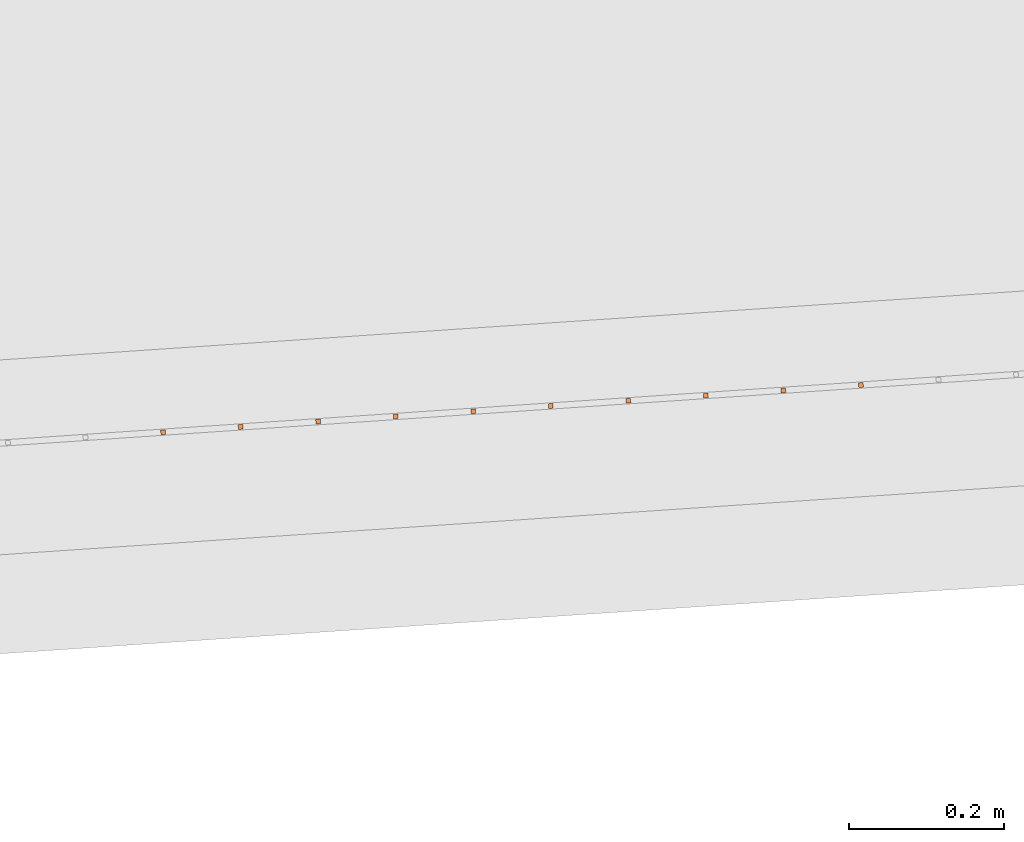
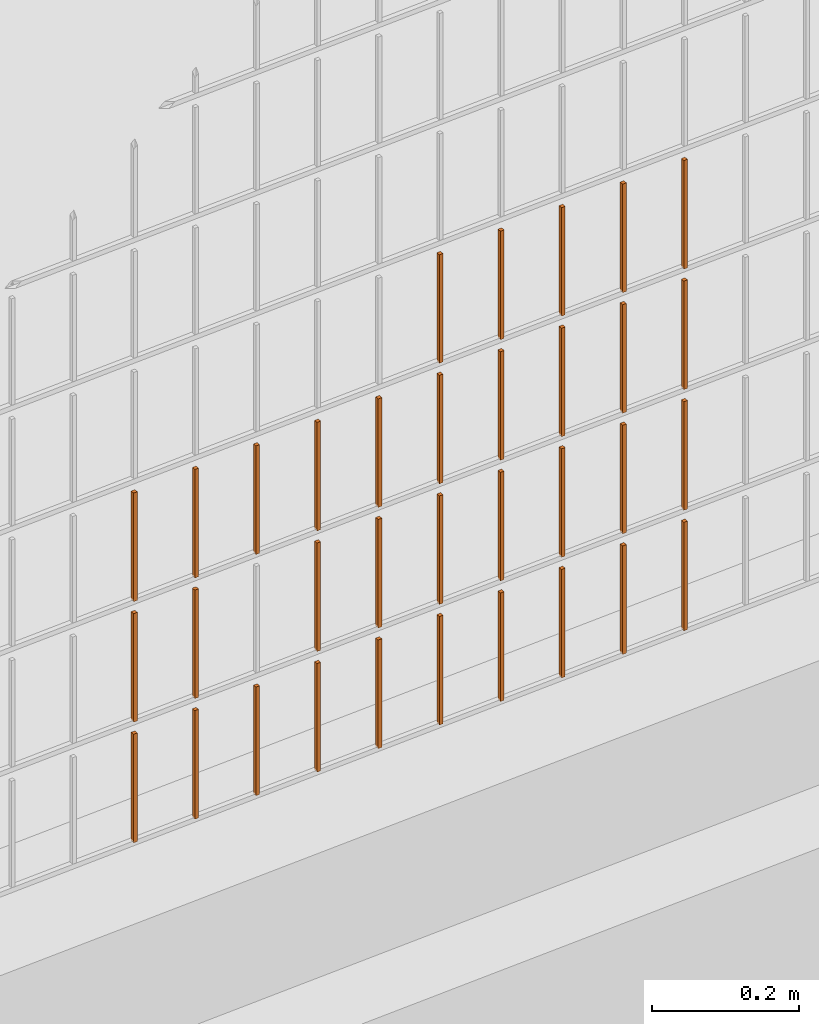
# One storey, part 310 of 1809: 34 proxies, 1 element without a shape of its own.
"""IFC2X3 building model written with IfcOpenShell, lengths in millimetres."""

from ifc_helpers import new_model, entity, si_unit, converted_unit, derived_unit, money_unit, direction, frame, origin_with_axes, place, context, subcontext, project, spatial, faceted_brep, source, transform, mapped, material, type_object, element, aggregate, save


model = new_model("IFC2X3")

# Units and contexts
model_context = context("Model", 3, precision=0.01, world=origin_with_axes(), true_north=direction((0.0, 1.0)))
body_context = subcontext(model_context, "Body", "Model", "MODEL_VIEW")
ifc_project = project(units=[si_unit("LENGTHUNIT", "METRE", prefix="MILLI"), si_unit("AREAUNIT", "SQUARE_METRE"), si_unit("VOLUMEUNIT", "CUBIC_METRE"), converted_unit("PLANEANGLEUNIT", "DEGREE", entity("IfcPlaneAngleMeasure", 0.0174532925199), si_unit("PLANEANGLEUNIT", "RADIAN"), dimensions=[0, 0, 0, 0, 0, 0, 0]), si_unit("SOLIDANGLEUNIT", "STERADIAN"), money_unit("EUR"), converted_unit("TIMEUNIT", "Year", entity("IfcTimeMeasure", 31556926.0), si_unit("TIMEUNIT", "SECOND"), dimensions=[0, 0, 1, 0, 0, 0, 0]), si_unit("MASSUNIT", "GRAM", prefix="KILO"), si_unit("THERMODYNAMICTEMPERATUREUNIT", "DEGREE_CELSIUS"), si_unit("LUMINOUSINTENSITYUNIT", "LUMEN"), si_unit("ENERGYUNIT", "JOULE", prefix="MEGA"), derived_unit("THERMALCONDUCTANCEUNIT", [(si_unit("POWERUNIT", "WATT"), 1), (si_unit("LENGTHUNIT", "METRE"), -1), (si_unit("THERMODYNAMICTEMPERATUREUNIT", "KELVIN"), -1)]), derived_unit("SPECIFICHEATCAPACITYUNIT", [(si_unit("ENERGYUNIT", "JOULE"), 1), (si_unit("MASSUNIT", "GRAM", prefix="KILO"), -1), (si_unit("THERMODYNAMICTEMPERATUREUNIT", "KELVIN"), -1)]), derived_unit("MASSDENSITYUNIT", [(si_unit("MASSUNIT", "GRAM", prefix="KILO"), 1), (si_unit("VOLUMEUNIT", "CUBIC_METRE"), -1)])], contexts=[model_context])

# Site, building, storey
site_placement = place(None, origin_with_axes())
site = spatial("IfcSite", under=ifc_project, at=site_placement, Name="Politse- ja Piirivalveameti ning Päästeameti ühishoone", CompositionType="ELEMENT")
building_placement = place(site_placement, origin_with_axes())
building = spatial("IfcBuilding", under=site, at=building_placement, Name="Politse- ja Piirivalveameti ning Päästeameti ühishoone", CompositionType="ELEMENT")
storey_placement = place(building_placement, origin_with_axes())
storey = spatial("IfcBuildingStorey", under=building, at=storey_placement, Name="Esimene korrus", CompositionType="ELEMENT", Elevation=0.0)

# Proxies
building_element_proxy_type_1 = type_object("IfcBuildingElementProxyType", Name="Railing Type", PredefinedType="NOTDEFINED")
proxy_1_placement = place(storey_placement, frame((89252.001212, -29183.4766571, 203.661247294), z_axis=(0.0, 0.0, 1.0), x_axis=(1.0, 0.0, 0.0)))
proxy_1 = element("IfcBuildingElementProxy", 1, at=proxy_1_placement, inside=storey, type_object=building_element_proxy_type_1, Name="PIIRDEAED")
ifc_material = material(Name="ET-03_Raud")
building_element_proxy_type_2 = type_object("IfcBuildingElementProxyType", Name="IfcBuildingElementProxy", PredefinedType="NOTDEFINED")
shared_shape_1 = source(origin_with_axes(), body_context, "Body", "Brep", [
    faceted_brep([(3.0, 3.0, -0.000752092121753), (-3.0, 3.0, -0.000752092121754), (-3.0, 3.0, 179.99926046), (3.0, 3.0, 179.99926046), (3.0, -3.0, 0.000752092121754), (-3.0, -3.0, 0.000752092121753), (-3.0, -3.0, 180.000764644), (3.0, -3.0, 180.000764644)], [[[0, 1, 2, 3]], [[0, 4, 5, 1]], [[1, 5, 6, 2]], [[3, 2, 6, 7]], [[4, 0, 3, 7]], [[5, 4, 7, 6]]]),
])
proxy_2_placement = place(proxy_1_placement, frame((-41033.1876878, -20069.4117363, 16.9240328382), z_axis=(0.0, 0.0, 1.0), x_axis=(1.0, 0.0, 0.0)))
proxy_2 = element("IfcBuildingElementProxy", 2, at=proxy_2_placement, type_object=building_element_proxy_type_2, material=ifc_material, Name="BALUSTER - 001", context=body_context, shape_type="MappedRepresentation", body=[
    mapped(shared_shape_1, transform((0.0, 0.0, 0.0), x_axis=(-0.0673926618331, 0.997726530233, 0.0), y_axis=(-0.997726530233, -0.0673926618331, 0.0), z_axis=(0.0, 0.0, 1.0))),
])
shared_shape_2 = source(origin_with_axes(), body_context, "Body", "Brep", [
    faceted_brep([(3.0, 3.0, -0.000752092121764), (-3.0, 3.0, -0.000752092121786), (-3.0, 3.0, 179.99926046), (3.0, 3.0, 179.99926046), (3.0, -3.0, 0.000752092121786), (-3.0, -3.0, 0.000752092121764), (-3.0, -3.0, 180.000764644), (3.0, -3.0, 180.000764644)], [[[0, 1, 2, 3]], [[0, 4, 5, 1]], [[1, 5, 6, 2]], [[3, 2, 6, 7]], [[4, 0, 3, 7]], [[5, 4, 7, 6]]]),
])
proxy_3_placement = place(proxy_1_placement, frame((-40534.3244226, -20035.7154053, 417.049381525), z_axis=(0.0, 0.0, 1.0), x_axis=(1.0, 0.0, 0.0)))
proxy_3 = element("IfcBuildingElementProxy", 3, at=proxy_3_placement, type_object=building_element_proxy_type_2, material=ifc_material, Name="BALUSTER - 001", context=body_context, shape_type="MappedRepresentation", body=[
    mapped(shared_shape_2, transform((0.0, 0.0, 0.0), x_axis=(-0.0673926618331, 0.997726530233, 0.0), y_axis=(-0.997726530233, -0.0673926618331, 0.0), z_axis=(0.0, 0.0, 1.0))),
])
proxy_4_placement = place(proxy_1_placement, frame((-40534.3244226, -20035.7154053, 617.049381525), z_axis=(0.0, 0.0, 1.0), x_axis=(1.0, 0.0, 0.0)))
proxy_4 = element("IfcBuildingElementProxy", 4, at=proxy_4_placement, type_object=building_element_proxy_type_2, material=ifc_material, Name="BALUSTER - 001", context=body_context, shape_type="MappedRepresentation", body=[
    mapped(shared_shape_2, transform((0.0, 0.0, 0.0), x_axis=(-0.0673926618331, 0.997726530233, 0.0), y_axis=(-0.997726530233, -0.0673926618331, 0.0), z_axis=(0.0, 0.0, 1.0))),
])
shared_shape_3 = source(origin_with_axes(), body_context, "Body", "Brep", [
    faceted_brep([(3.0, 3.0, -0.000752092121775), (-3.0, 3.0, -0.000752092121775), (-3.0, 3.0, 179.99926046), (3.0, 3.0, 179.99926046), (3.0, -3.0, 0.000752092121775), (-3.0, -3.0, 0.000752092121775), (-3.0, -3.0, 180.000764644), (3.0, -3.0, 180.000764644)], [[[0, 1, 2, 3]], [[0, 4, 5, 1]], [[1, 5, 6, 2]], [[3, 2, 6, 7]], [[4, 0, 3, 7]], [[5, 4, 7, 6]]]),
])
proxy_5_placement = place(proxy_1_placement, frame((-40434.5517696, -20028.9761392, 617.074451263), z_axis=(0.0, 0.0, 1.0), x_axis=(1.0, 0.0, 0.0)))
proxy_5 = element("IfcBuildingElementProxy", 5, at=proxy_5_placement, type_object=building_element_proxy_type_2, material=ifc_material, Name="BALUSTER - 001", context=body_context, shape_type="MappedRepresentation", body=[
    mapped(shared_shape_3, transform((0.0, 0.0, 0.0), x_axis=(-0.0673926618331, 0.997726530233, 0.0), y_axis=(-0.997726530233, -0.0673926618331, 0.0), z_axis=(0.0, 0.0, 1.0))),
])
shared_shape_4 = source(origin_with_axes(), body_context, "Body", "Brep", [
    faceted_brep([(3.0, 3.0, -0.000752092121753), (-3.0, 3.0, -0.000752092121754), (-3.0, 3.0, 179.99926046), (3.0, 3.0, 179.99926046), (3.0, -3.0, 0.000752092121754), (-3.0, -3.0, 0.000752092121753), (-3.0, -3.0, 180.000764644), (3.0, -3.0, 180.000764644)], [[[0, 1, 2, 3]], [[0, 4, 5, 1]], [[1, 5, 6, 2]], [[3, 2, 6, 7]], [[4, 0, 3, 7]], [[5, 4, 7, 6]]]),
])
proxy_6_placement = place(proxy_1_placement, frame((-41033.1876878, -20069.4117363, 416.924032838), z_axis=(0.0, 0.0, 1.0), x_axis=(1.0, 0.0, 0.0)))
proxy_6 = element("IfcBuildingElementProxy", 6, at=proxy_6_placement, type_object=building_element_proxy_type_2, material=ifc_material, Name="BALUSTER - 001", context=body_context, shape_type="MappedRepresentation", body=[
    mapped(shared_shape_4, transform((0.0, 0.0, 0.0), x_axis=(-0.0673926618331, 0.997726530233, 0.0), y_axis=(-0.997726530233, -0.0673926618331, 0.0), z_axis=(0.0, 0.0, 1.0))),
])
shared_shape_5 = source(origin_with_axes(), body_context, "Body", "Brep", [
    faceted_brep([(3.0, 3.0, -0.000752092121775), (-3.0, 3.0, -0.000752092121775), (-3.0, 3.0, 179.99926046), (3.0, 3.0, 179.99926046), (3.0, -3.0, 0.000752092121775), (-3.0, -3.0, 0.000752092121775), (-3.0, -3.0, 180.000764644), (3.0, -3.0, 180.000764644)], [[[0, 1, 2, 3]], [[0, 4, 5, 1]], [[1, 5, 6, 2]], [[3, 2, 6, 7]], [[4, 0, 3, 7]], [[5, 4, 7, 6]]]),
])
proxy_7_placement = place(proxy_1_placement, frame((-40434.5517696, -20028.9761392, 417.074451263), z_axis=(0.0, 0.0, 1.0), x_axis=(1.0, 0.0, 0.0)))
proxy_7 = element("IfcBuildingElementProxy", 7, at=proxy_7_placement, type_object=building_element_proxy_type_2, material=ifc_material, Name="BALUSTER - 001", context=body_context, shape_type="MappedRepresentation", body=[
    mapped(shared_shape_5, transform((0.0, 0.0, 0.0), x_axis=(-0.0673926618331, 0.997726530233, 0.0), y_axis=(-0.997726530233, -0.0673926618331, 0.0), z_axis=(0.0, 0.0, 1.0))),
])
shared_shape_6 = source(origin_with_axes(), body_context, "Body", "Brep", [
    faceted_brep([(3.0, 3.0, -0.000752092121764), (-3.0, 3.0, -0.000752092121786), (-3.0, 3.0, 179.99926046), (3.0, 3.0, 179.99926046), (3.0, -3.0, 0.000752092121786), (-3.0, -3.0, 0.000752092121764), (-3.0, -3.0, 180.000764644), (3.0, -3.0, 180.000764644)], [[[0, 1, 2, 3]], [[0, 4, 5, 1]], [[1, 5, 6, 2]], [[3, 2, 6, 7]], [[4, 0, 3, 7]], [[5, 4, 7, 6]]]),
])
proxy_8_placement = place(proxy_1_placement, frame((-40534.3244226, -20035.7154053, 17.0493815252), z_axis=(0.0, 0.0, 1.0), x_axis=(1.0, 0.0, 0.0)))
proxy_8 = element("IfcBuildingElementProxy", 8, at=proxy_8_placement, type_object=building_element_proxy_type_2, material=ifc_material, Name="BALUSTER - 001", context=body_context, shape_type="MappedRepresentation", body=[
    mapped(shared_shape_6, transform((0.0, 0.0, 0.0), x_axis=(-0.0673926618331, 0.997726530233, 0.0), y_axis=(-0.997726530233, -0.0673926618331, 0.0), z_axis=(0.0, 0.0, 1.0))),
])
shared_shape_7 = source(origin_with_axes(), body_context, "Body", "Brep", [
    faceted_brep([(3.0, 3.0, -0.000752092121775), (-3.0, 3.0, -0.000752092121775), (-3.0, 3.0, 179.99926046), (3.0, 3.0, 179.99926046), (3.0, -3.0, 0.000752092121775), (-3.0, -3.0, 0.000752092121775), (-3.0, -3.0, 180.000764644), (3.0, -3.0, 180.000764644)], [[[0, 1, 2, 3]], [[0, 4, 5, 1]], [[1, 5, 6, 2]], [[3, 2, 6, 7]], [[4, 0, 3, 7]], [[5, 4, 7, 6]]]),
])
proxy_9_placement = place(proxy_1_placement, frame((-40434.5517696, -20028.9761392, 17.0744512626), z_axis=(0.0, 0.0, 1.0), x_axis=(1.0, 0.0, 0.0)))
proxy_9 = element("IfcBuildingElementProxy", 9, at=proxy_9_placement, type_object=building_element_proxy_type_2, material=ifc_material, Name="BALUSTER - 001", context=body_context, shape_type="MappedRepresentation", body=[
    mapped(shared_shape_7, transform((0.0, 0.0, 0.0), x_axis=(-0.0673926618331, 0.997726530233, 0.0), y_axis=(-0.997726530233, -0.0673926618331, 0.0), z_axis=(0.0, 0.0, 1.0))),
])
proxy_10_placement = place(proxy_1_placement, frame((-40434.5517696, -20028.9761392, 217.074451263), z_axis=(0.0, 0.0, 1.0), x_axis=(1.0, 0.0, 0.0)))
proxy_10 = element("IfcBuildingElementProxy", 10, at=proxy_10_placement, type_object=building_element_proxy_type_2, material=ifc_material, Name="BALUSTER - 001", context=body_context, shape_type="MappedRepresentation", body=[
    mapped(shared_shape_7, transform((0.0, 0.0, 0.0), x_axis=(-0.0673926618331, 0.997726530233, 0.0), y_axis=(-0.997726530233, -0.0673926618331, 0.0), z_axis=(0.0, 0.0, 1.0))),
])
shared_shape_8 = source(origin_with_axes(), body_context, "Body", "Brep", [
    faceted_brep([(3.0, 3.0, -0.000752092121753), (-3.0, 3.0, -0.000752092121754), (-3.0, 3.0, 179.99926046), (3.0, 3.0, 179.99926046), (3.0, -3.0, 0.000752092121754), (-3.0, -3.0, 0.000752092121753), (-3.0, -3.0, 180.000764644), (3.0, -3.0, 180.000764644)], [[[0, 1, 2, 3]], [[0, 4, 5, 1]], [[1, 5, 6, 2]], [[3, 2, 6, 7]], [[4, 0, 3, 7]], [[5, 4, 7, 6]]]),
])
proxy_11_placement = place(proxy_1_placement, frame((-41033.1876878, -20069.4117363, 216.924032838), z_axis=(0.0, 0.0, 1.0), x_axis=(1.0, 0.0, 0.0)))
proxy_11 = element("IfcBuildingElementProxy", 11, at=proxy_11_placement, type_object=building_element_proxy_type_2, material=ifc_material, Name="BALUSTER - 001", context=body_context, shape_type="MappedRepresentation", body=[
    mapped(shared_shape_8, transform((0.0, 0.0, 0.0), x_axis=(-0.0673926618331, 0.997726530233, 0.0), y_axis=(-0.997726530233, -0.0673926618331, 0.0), z_axis=(0.0, 0.0, 1.0))),
])
shared_shape_9 = source(origin_with_axes(), body_context, "Body", "Brep", [
    faceted_brep([(3.0, 3.0, -0.000752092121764), (-3.0, 3.0, -0.000752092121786), (-3.0, 3.0, 179.99926046), (3.0, 3.0, 179.99926046), (3.0, -3.0, 0.000752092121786), (-3.0, -3.0, 0.000752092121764), (-3.0, -3.0, 180.000764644), (3.0, -3.0, 180.000764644)], [[[0, 1, 2, 3]], [[0, 4, 5, 1]], [[1, 5, 6, 2]], [[3, 2, 6, 7]], [[4, 0, 3, 7]], [[5, 4, 7, 6]]]),
])
proxy_12_placement = place(proxy_1_placement, frame((-40534.3244226, -20035.7154053, 217.049381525), z_axis=(0.0, 0.0, 1.0), x_axis=(1.0, 0.0, 0.0)))
proxy_12 = element("IfcBuildingElementProxy", 12, at=proxy_12_placement, type_object=building_element_proxy_type_2, material=ifc_material, Name="BALUSTER - 001", context=body_context, shape_type="MappedRepresentation", body=[
    mapped(shared_shape_9, transform((0.0, 0.0, 0.0), x_axis=(-0.0673926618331, 0.997726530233, 0.0), y_axis=(-0.997726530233, -0.0673926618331, 0.0), z_axis=(0.0, 0.0, 1.0))),
])
shared_shape_10 = source(origin_with_axes(), body_context, "Body", "Brep", [
    faceted_brep([(3.0, 3.0, -0.000752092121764), (-3.0, 3.0, -0.000752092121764), (-3.0, 3.0, 179.99926046), (3.0, 3.0, 179.99926046), (3.0, -3.0, 0.000752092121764), (-3.0, -3.0, 0.000752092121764), (-3.0, -3.0, 180.000764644), (3.0, -3.0, 180.000764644)], [[[0, 1, 2, 3]], [[0, 4, 5, 1]], [[1, 5, 6, 2]], [[3, 2, 6, 7]], [[4, 0, 3, 7]], [[5, 4, 7, 6]]]),
])
proxy_13_placement = place(proxy_1_placement, frame((-40634.0970757, -20042.4546715, 617.024311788), z_axis=(0.0, 0.0, 1.0), x_axis=(1.0, 0.0, 0.0)))
proxy_13 = element("IfcBuildingElementProxy", 13, at=proxy_13_placement, type_object=building_element_proxy_type_2, material=ifc_material, Name="BALUSTER - 001", context=body_context, shape_type="MappedRepresentation", body=[
    mapped(shared_shape_10, transform((0.0, 0.0, 0.0), x_axis=(-0.0673926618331, 0.997726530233, 0.0), y_axis=(-0.997726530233, -0.0673926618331, 0.0), z_axis=(0.0, 0.0, 1.0))),
])
shared_shape_11 = source(origin_with_axes(), body_context, "Body", "Brep", [
    faceted_brep([(3.0, 3.0, -0.000752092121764), (-3.0, 3.0, -0.000752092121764), (-3.0, 3.0, 179.99926046), (3.0, 3.0, 179.99926046), (3.0, -3.0, 0.000752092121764), (-3.0, -3.0, 0.000752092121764), (-3.0, -3.0, 180.000764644), (3.0, -3.0, 180.000764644)], [[[0, 1, 2, 3]], [[0, 4, 5, 1]], [[1, 5, 6, 2]], [[3, 2, 6, 7]], [[4, 0, 3, 7]], [[5, 4, 7, 6]]]),
])
proxy_14_placement = place(proxy_1_placement, frame((-40235.0064636, -20015.4976068, 417.124590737), z_axis=(0.0, 0.0, 1.0), x_axis=(1.0, 0.0, 0.0)))
proxy_14 = element("IfcBuildingElementProxy", 14, at=proxy_14_placement, type_object=building_element_proxy_type_2, material=ifc_material, Name="BALUSTER - 001", context=body_context, shape_type="MappedRepresentation", body=[
    mapped(shared_shape_11, transform((0.0, 0.0, 0.0), x_axis=(-0.0673926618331, 0.997726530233, 0.0), y_axis=(-0.997726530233, -0.0673926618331, 0.0), z_axis=(0.0, 0.0, 1.0))),
])
proxy_15_placement = place(proxy_1_placement, frame((-40235.0064636, -20015.4976068, 617.124590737), z_axis=(0.0, 0.0, 1.0), x_axis=(1.0, 0.0, 0.0)))
proxy_15 = element("IfcBuildingElementProxy", 15, at=proxy_15_placement, type_object=building_element_proxy_type_2, material=ifc_material, Name="BALUSTER - 001", context=body_context, shape_type="MappedRepresentation", body=[
    mapped(shared_shape_11, transform((0.0, 0.0, 0.0), x_axis=(-0.0673926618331, 0.997726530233, 0.0), y_axis=(-0.997726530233, -0.0673926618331, 0.0), z_axis=(0.0, 0.0, 1.0))),
])
shared_shape_12 = source(origin_with_axes(), body_context, "Body", "Brep", [
    faceted_brep([(3.0, 3.0, -0.000752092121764), (-3.0, 3.0, -0.000752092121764), (-3.0, 3.0, 179.99926046), (3.0, 3.0, 179.99926046), (3.0, -3.0, 0.000752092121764), (-3.0, -3.0, 0.000752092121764), (-3.0, -3.0, 180.000764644), (3.0, -3.0, 180.000764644)], [[[0, 1, 2, 3]], [[0, 4, 5, 1]], [[1, 5, 6, 2]], [[3, 2, 6, 7]], [[4, 0, 3, 7]], [[5, 4, 7, 6]]]),
])
proxy_16_placement = place(proxy_1_placement, frame((-40235.0064636, -20015.4976068, 217.124590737), z_axis=(0.0, 0.0, 1.0), x_axis=(1.0, 0.0, 0.0)))
proxy_16 = element("IfcBuildingElementProxy", 16, at=proxy_16_placement, type_object=building_element_proxy_type_2, material=ifc_material, Name="BALUSTER - 001", context=body_context, shape_type="MappedRepresentation", body=[
    mapped(shared_shape_12, transform((0.0, 0.0, 0.0), x_axis=(-0.0673926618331, 0.997726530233, 0.0), y_axis=(-0.997726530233, -0.0673926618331, 0.0), z_axis=(0.0, 0.0, 1.0))),
])
shared_shape_13 = source(origin_with_axes(), body_context, "Body", "Brep", [
    faceted_brep([(3.0, 3.0, -0.000752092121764), (-3.0, 3.0, -0.000752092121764), (-3.0, 3.0, 179.99926046), (3.0, 3.0, 179.99926046), (3.0, -3.0, 0.000752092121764), (-3.0, -3.0, 0.000752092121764), (-3.0, -3.0, 180.000764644), (3.0, -3.0, 180.000764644)], [[[0, 1, 2, 3]], [[0, 4, 5, 1]], [[1, 5, 6, 2]], [[3, 2, 6, 7]], [[4, 0, 3, 7]], [[5, 4, 7, 6]]]),
])
proxy_17_placement = place(proxy_1_placement, frame((-40634.0970757, -20042.4546715, 217.024311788), z_axis=(0.0, 0.0, 1.0), x_axis=(1.0, 0.0, 0.0)))
proxy_17 = element("IfcBuildingElementProxy", 17, at=proxy_17_placement, type_object=building_element_proxy_type_2, material=ifc_material, Name="BALUSTER - 001", context=body_context, shape_type="MappedRepresentation", body=[
    mapped(shared_shape_13, transform((0.0, 0.0, 0.0), x_axis=(-0.0673926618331, 0.997726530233, 0.0), y_axis=(-0.997726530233, -0.0673926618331, 0.0), z_axis=(0.0, 0.0, 1.0))),
])
proxy_18_placement = place(proxy_1_placement, frame((-40634.0970757, -20042.4546715, 417.024311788), z_axis=(0.0, 0.0, 1.0), x_axis=(1.0, 0.0, 0.0)))
proxy_18 = element("IfcBuildingElementProxy", 18, at=proxy_18_placement, type_object=building_element_proxy_type_2, material=ifc_material, Name="BALUSTER - 001", context=body_context, shape_type="MappedRepresentation", body=[
    mapped(shared_shape_13, transform((0.0, 0.0, 0.0), x_axis=(-0.0673926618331, 0.997726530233, 0.0), y_axis=(-0.997726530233, -0.0673926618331, 0.0), z_axis=(0.0, 0.0, 1.0))),
])
shared_shape_14 = source(origin_with_axes(), body_context, "Body", "Brep", [
    faceted_brep([(3.0, 3.0, -0.000752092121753), (-3.0, 3.0, -0.000752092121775), (-3.0, 3.0, 179.99926046), (3.0, 3.0, 179.99926046), (3.0, -3.0, 0.000752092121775), (-3.0, -3.0, 0.000752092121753), (-3.0, -3.0, 180.000764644), (3.0, -3.0, 180.000764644)], [[[0, 1, 2, 3]], [[0, 4, 5, 1]], [[1, 5, 6, 2]], [[3, 2, 6, 7]], [[4, 0, 3, 7]], [[5, 4, 7, 6]]]),
])
proxy_19_placement = place(proxy_1_placement, frame((-41132.9603408, -20076.1510024, 416.898963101), z_axis=(0.0, 0.0, 1.0), x_axis=(1.0, 0.0, 0.0)))
proxy_19 = element("IfcBuildingElementProxy", 19, at=proxy_19_placement, type_object=building_element_proxy_type_2, material=ifc_material, Name="BALUSTER - 001", context=body_context, shape_type="MappedRepresentation", body=[
    mapped(shared_shape_14, transform((0.0, 0.0, 0.0), x_axis=(-0.0673926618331, 0.997726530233, 0.0), y_axis=(-0.997726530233, -0.0673926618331, 0.0), z_axis=(0.0, 0.0, 1.0))),
])
shared_shape_15 = source(origin_with_axes(), body_context, "Body", "Brep", [
    faceted_brep([(3.0, 3.0, -0.000752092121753), (-3.0, 3.0, -0.000752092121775), (-3.0, 3.0, 179.99926046), (3.0, 3.0, 179.99926046), (3.0, -3.0, 0.000752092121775), (-3.0, -3.0, 0.000752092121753), (-3.0, -3.0, 180.000764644), (3.0, -3.0, 180.000764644)], [[[0, 1, 2, 3]], [[0, 4, 5, 1]], [[1, 5, 6, 2]], [[3, 2, 6, 7]], [[4, 0, 3, 7]], [[5, 4, 7, 6]]]),
])
proxy_20_placement = place(proxy_1_placement, frame((-40933.4150347, -20062.6724701, 16.9491025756), z_axis=(0.0, 0.0, 1.0), x_axis=(1.0, 0.0, 0.0)))
proxy_20 = element("IfcBuildingElementProxy", 20, at=proxy_20_placement, type_object=building_element_proxy_type_2, material=ifc_material, Name="BALUSTER - 001", context=body_context, shape_type="MappedRepresentation", body=[
    mapped(shared_shape_15, transform((0.0, 0.0, 0.0), x_axis=(-0.0673926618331, 0.997726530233, 0.0), y_axis=(-0.997726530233, -0.0673926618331, 0.0), z_axis=(0.0, 0.0, 1.0))),
])
shared_shape_16 = source(origin_with_axes(), body_context, "Body", "Brep", [
    faceted_brep([(3.0, 3.0, -0.000752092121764), (-3.0, 3.0, -0.000752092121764), (-3.0, 3.0, 179.99926046), (3.0, 3.0, 179.99926046), (3.0, -3.0, 0.000752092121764), (-3.0, -3.0, 0.000752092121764), (-3.0, -3.0, 180.000764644), (3.0, -3.0, 180.000764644)], [[[0, 1, 2, 3]], [[0, 4, 5, 1]], [[1, 5, 6, 2]], [[3, 2, 6, 7]], [[4, 0, 3, 7]], [[5, 4, 7, 6]]]),
])
proxy_21_placement = place(proxy_1_placement, frame((-40634.0970757, -20042.4546715, 17.0243117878), z_axis=(0.0, 0.0, 1.0), x_axis=(1.0, 0.0, 0.0)))
proxy_21 = element("IfcBuildingElementProxy", 21, at=proxy_21_placement, type_object=building_element_proxy_type_2, material=ifc_material, Name="BALUSTER - 001", context=body_context, shape_type="MappedRepresentation", body=[
    mapped(shared_shape_16, transform((0.0, 0.0, 0.0), x_axis=(-0.0673926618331, 0.997726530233, 0.0), y_axis=(-0.997726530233, -0.0673926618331, 0.0), z_axis=(0.0, 0.0, 1.0))),
])
shared_shape_17 = source(origin_with_axes(), body_context, "Body", "Brep", [
    faceted_brep([(3.0, 3.0, -0.000752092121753), (-3.0, 3.0, -0.000752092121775), (-3.0, 3.0, 179.99926046), (3.0, 3.0, 179.99926046), (3.0, -3.0, 0.000752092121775), (-3.0, -3.0, 0.000752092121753), (-3.0, -3.0, 180.000764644), (3.0, -3.0, 180.000764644)], [[[0, 1, 2, 3]], [[0, 4, 5, 1]], [[1, 5, 6, 2]], [[3, 2, 6, 7]], [[4, 0, 3, 7]], [[5, 4, 7, 6]]]),
])
proxy_22_placement = place(proxy_1_placement, frame((-41132.9603408, -20076.1510024, 16.8989631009), z_axis=(0.0, 0.0, 1.0), x_axis=(1.0, 0.0, 0.0)))
proxy_22 = element("IfcBuildingElementProxy", 22, at=proxy_22_placement, type_object=building_element_proxy_type_2, material=ifc_material, Name="BALUSTER - 001", context=body_context, shape_type="MappedRepresentation", body=[
    mapped(shared_shape_17, transform((0.0, 0.0, 0.0), x_axis=(-0.0673926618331, 0.997726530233, 0.0), y_axis=(-0.997726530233, -0.0673926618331, 0.0), z_axis=(0.0, 0.0, 1.0))),
])
proxy_23_placement = place(proxy_1_placement, frame((-41132.9603408, -20076.1510024, 216.898963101), z_axis=(0.0, 0.0, 1.0), x_axis=(1.0, 0.0, 0.0)))
proxy_23 = element("IfcBuildingElementProxy", 23, at=proxy_23_placement, type_object=building_element_proxy_type_2, material=ifc_material, Name="BALUSTER - 001", context=body_context, shape_type="MappedRepresentation", body=[
    mapped(shared_shape_17, transform((0.0, 0.0, 0.0), x_axis=(-0.0673926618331, 0.997726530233, 0.0), y_axis=(-0.997726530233, -0.0673926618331, 0.0), z_axis=(0.0, 0.0, 1.0))),
])
shared_shape_18 = source(origin_with_axes(), body_context, "Body", "Brep", [
    faceted_brep([(3.0, 3.0, -0.000752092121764), (-3.0, 3.0, -0.000752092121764), (-3.0, 3.0, 179.99926046), (3.0, 3.0, 179.99926046), (3.0, -3.0, 0.000752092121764), (-3.0, -3.0, 0.000752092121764), (-3.0, -3.0, 180.000764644), (3.0, -3.0, 180.000764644)], [[[0, 1, 2, 3]], [[0, 4, 5, 1]], [[1, 5, 6, 2]], [[3, 2, 6, 7]], [[4, 0, 3, 7]], [[5, 4, 7, 6]]]),
])
proxy_24_placement = place(proxy_1_placement, frame((-40833.6423817, -20055.9332039, 16.974172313), z_axis=(0.0, 0.0, 1.0), x_axis=(1.0, 0.0, 0.0)))
proxy_24 = element("IfcBuildingElementProxy", 24, at=proxy_24_placement, type_object=building_element_proxy_type_2, material=ifc_material, Name="BALUSTER - 001", context=body_context, shape_type="MappedRepresentation", body=[
    mapped(shared_shape_18, transform((0.0, 0.0, 0.0), x_axis=(-0.0673926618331, 0.997726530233, 0.0), y_axis=(-0.997726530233, -0.0673926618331, 0.0), z_axis=(0.0, 0.0, 1.0))),
])
shared_shape_19 = source(origin_with_axes(), body_context, "Body", "Brep", [
    faceted_brep([(3.0, 3.0, -0.000752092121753), (-3.0, 3.0, -0.000752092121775), (-3.0, 3.0, 179.99926046), (3.0, 3.0, 179.99926046), (3.0, -3.0, 0.000752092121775), (-3.0, -3.0, 0.000752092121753), (-3.0, -3.0, 180.000764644), (3.0, -3.0, 180.000764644)], [[[0, 1, 2, 3]], [[0, 4, 5, 1]], [[1, 5, 6, 2]], [[3, 2, 6, 7]], [[4, 0, 3, 7]], [[5, 4, 7, 6]]]),
])
proxy_25_placement = place(proxy_1_placement, frame((-40933.4150347, -20062.6724701, 416.949102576), z_axis=(0.0, 0.0, 1.0), x_axis=(1.0, 0.0, 0.0)))
proxy_25 = element("IfcBuildingElementProxy", 25, at=proxy_25_placement, type_object=building_element_proxy_type_2, material=ifc_material, Name="BALUSTER - 001", context=body_context, shape_type="MappedRepresentation", body=[
    mapped(shared_shape_19, transform((0.0, 0.0, 0.0), x_axis=(-0.0673926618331, 0.997726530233, 0.0), y_axis=(-0.997726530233, -0.0673926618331, 0.0), z_axis=(0.0, 0.0, 1.0))),
])
shared_shape_20 = source(origin_with_axes(), body_context, "Body", "Brep", [
    faceted_brep([(3.0, 3.0, -0.000752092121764), (-3.0, 3.0, -0.000752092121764), (-3.0, 3.0, 179.99926046), (3.0, 3.0, 179.99926046), (3.0, -3.0, 0.000752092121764), (-3.0, -3.0, 0.000752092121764), (-3.0, -3.0, 180.000764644), (3.0, -3.0, 180.000764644)], [[[0, 1, 2, 3]], [[0, 4, 5, 1]], [[1, 5, 6, 2]], [[3, 2, 6, 7]], [[4, 0, 3, 7]], [[5, 4, 7, 6]]]),
])
proxy_26_placement = place(proxy_1_placement, frame((-40733.8697287, -20049.1939377, 216.99924205), z_axis=(0.0, 0.0, 1.0), x_axis=(1.0, 0.0, 0.0)))
proxy_26 = element("IfcBuildingElementProxy", 26, at=proxy_26_placement, type_object=building_element_proxy_type_2, material=ifc_material, Name="BALUSTER - 001", context=body_context, shape_type="MappedRepresentation", body=[
    mapped(shared_shape_20, transform((0.0, 0.0, 0.0), x_axis=(-0.0673926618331, 0.997726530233, 0.0), y_axis=(-0.997726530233, -0.0673926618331, 0.0), z_axis=(0.0, 0.0, 1.0))),
])
proxy_27_placement = place(proxy_1_placement, frame((-40833.6423817, -20055.9332039, 216.974172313), z_axis=(0.0, 0.0, 1.0), x_axis=(1.0, 0.0, 0.0)))
proxy_27 = element("IfcBuildingElementProxy", 27, at=proxy_27_placement, type_object=building_element_proxy_type_2, material=ifc_material, Name="BALUSTER - 001", context=body_context, shape_type="MappedRepresentation", body=[
    mapped(shared_shape_20, transform((0.0, 0.0, 0.0), x_axis=(-0.0673926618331, 0.997726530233, 0.0), y_axis=(-0.997726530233, -0.0673926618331, 0.0), z_axis=(0.0, 0.0, 1.0))),
])
proxy_28_placement = place(proxy_1_placement, frame((-40833.6423817, -20055.9332039, 416.974172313), z_axis=(0.0, 0.0, 1.0), x_axis=(1.0, 0.0, 0.0)))
proxy_28 = element("IfcBuildingElementProxy", 28, at=proxy_28_placement, type_object=building_element_proxy_type_2, material=ifc_material, Name="BALUSTER - 001", context=body_context, shape_type="MappedRepresentation", body=[
    mapped(shared_shape_20, transform((0.0, 0.0, 0.0), x_axis=(-0.0673926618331, 0.997726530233, 0.0), y_axis=(-0.997726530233, -0.0673926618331, 0.0), z_axis=(0.0, 0.0, 1.0))),
])
shared_shape_21 = source(origin_with_axes(), body_context, "Body", "Brep", [
    faceted_brep([(3.0, 3.0, -0.000752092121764), (-3.0, 3.0, -0.000752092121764), (-3.0, 3.0, 179.99926046), (3.0, 3.0, 179.99926046), (3.0, -3.0, 0.000752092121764), (-3.0, -3.0, 0.000752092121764), (-3.0, -3.0, 180.000764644), (3.0, -3.0, 180.000764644)], [[[0, 1, 2, 3]], [[0, 4, 5, 1]], [[1, 5, 6, 2]], [[3, 2, 6, 7]], [[4, 0, 3, 7]], [[5, 4, 7, 6]]]),
])
proxy_29_placement = place(proxy_1_placement, frame((-40733.8697287, -20049.1939377, 16.9992420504), z_axis=(0.0, 0.0, 1.0), x_axis=(1.0, 0.0, 0.0)))
proxy_29 = element("IfcBuildingElementProxy", 29, at=proxy_29_placement, type_object=building_element_proxy_type_2, material=ifc_material, Name="BALUSTER - 001", context=body_context, shape_type="MappedRepresentation", body=[
    mapped(shared_shape_21, transform((0.0, 0.0, 0.0), x_axis=(-0.0673926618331, 0.997726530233, 0.0), y_axis=(-0.997726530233, -0.0673926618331, 0.0), z_axis=(0.0, 0.0, 1.0))),
])
shared_shape_22 = source(origin_with_axes(), body_context, "Body", "Brep", [
    faceted_brep([(3.0, 3.0, -0.000752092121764), (-3.0, 3.0, -0.000752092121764), (-3.0, 3.0, 179.99926046), (3.0, 3.0, 179.99926046), (3.0, -3.0, 0.000752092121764), (-3.0, -3.0, 0.000752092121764), (-3.0, -3.0, 180.000764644), (3.0, -3.0, 180.000764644)], [[[0, 1, 2, 3]], [[0, 4, 5, 1]], [[1, 5, 6, 2]], [[3, 2, 6, 7]], [[4, 0, 3, 7]], [[5, 4, 7, 6]]]),
])
proxy_30_placement = place(proxy_1_placement, frame((-40733.8697287, -20049.1939377, 416.99924205), z_axis=(0.0, 0.0, 1.0), x_axis=(1.0, 0.0, 0.0)))
proxy_30 = element("IfcBuildingElementProxy", 30, at=proxy_30_placement, type_object=building_element_proxy_type_2, material=ifc_material, Name="BALUSTER - 001", context=body_context, shape_type="MappedRepresentation", body=[
    mapped(shared_shape_22, transform((0.0, 0.0, 0.0), x_axis=(-0.0673926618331, 0.997726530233, 0.0), y_axis=(-0.997726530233, -0.0673926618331, 0.0), z_axis=(0.0, 0.0, 1.0))),
])
shared_shape_23 = source(origin_with_axes(), body_context, "Body", "Brep", [
    faceted_brep([(3.0, 3.0, -0.000752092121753), (-3.0, 3.0, -0.000752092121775), (-3.0, 3.0, 179.99926046), (3.0, 3.0, 179.99926046), (3.0, -3.0, 0.000752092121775), (-3.0, -3.0, 0.000752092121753), (-3.0, -3.0, 180.000764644), (3.0, -3.0, 180.000764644)], [[[0, 1, 2, 3]], [[0, 4, 5, 1]], [[1, 5, 6, 2]], [[3, 2, 6, 7]], [[4, 0, 3, 7]], [[5, 4, 7, 6]]]),
])
proxy_31_placement = place(proxy_1_placement, frame((-40334.7791166, -20022.236873, 617.099521), z_axis=(0.0, 0.0, 1.0), x_axis=(1.0, 0.0, 0.0)))
proxy_31 = element("IfcBuildingElementProxy", 31, at=proxy_31_placement, type_object=building_element_proxy_type_2, material=ifc_material, Name="BALUSTER - 001", context=body_context, shape_type="MappedRepresentation", body=[
    mapped(shared_shape_23, transform((0.0, 0.0, 0.0), x_axis=(-0.0673926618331, 0.997726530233, 0.0), y_axis=(-0.997726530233, -0.0673926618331, 0.0), z_axis=(0.0, 0.0, 1.0))),
])
shared_shape_24 = source(origin_with_axes(), body_context, "Body", "Brep", [
    faceted_brep([(3.0, 3.0, -0.000752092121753), (-3.0, 3.0, -0.000752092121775), (-3.0, 3.0, 179.99926046), (3.0, 3.0, 179.99926046), (3.0, -3.0, 0.000752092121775), (-3.0, -3.0, 0.000752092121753), (-3.0, -3.0, 180.000764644), (3.0, -3.0, 180.000764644)], [[[0, 1, 2, 3]], [[0, 4, 5, 1]], [[1, 5, 6, 2]], [[3, 2, 6, 7]], [[4, 0, 3, 7]], [[5, 4, 7, 6]]]),
])
proxy_32_placement = place(proxy_1_placement, frame((-40334.7791166, -20022.236873, 17.099521), z_axis=(0.0, 0.0, 1.0), x_axis=(1.0, 0.0, 0.0)))
proxy_32 = element("IfcBuildingElementProxy", 32, at=proxy_32_placement, type_object=building_element_proxy_type_2, material=ifc_material, Name="BALUSTER - 001", context=body_context, shape_type="MappedRepresentation", body=[
    mapped(shared_shape_24, transform((0.0, 0.0, 0.0), x_axis=(-0.0673926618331, 0.997726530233, 0.0), y_axis=(-0.997726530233, -0.0673926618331, 0.0), z_axis=(0.0, 0.0, 1.0))),
])
shared_shape_25 = source(origin_with_axes(), body_context, "Body", "Brep", [
    faceted_brep([(3.0, 3.0, -0.000752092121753), (-3.0, 3.0, -0.000752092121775), (-3.0, 3.0, 179.99926046), (3.0, 3.0, 179.99926046), (3.0, -3.0, 0.000752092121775), (-3.0, -3.0, 0.000752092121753), (-3.0, -3.0, 180.000764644), (3.0, -3.0, 180.000764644)], [[[0, 1, 2, 3]], [[0, 4, 5, 1]], [[1, 5, 6, 2]], [[3, 2, 6, 7]], [[4, 0, 3, 7]], [[5, 4, 7, 6]]]),
])
proxy_33_placement = place(proxy_1_placement, frame((-40334.7791166, -20022.236873, 417.099521), z_axis=(0.0, 0.0, 1.0), x_axis=(1.0, 0.0, 0.0)))
proxy_33 = element("IfcBuildingElementProxy", 33, at=proxy_33_placement, type_object=building_element_proxy_type_2, material=ifc_material, Name="BALUSTER - 001", context=body_context, shape_type="MappedRepresentation", body=[
    mapped(shared_shape_25, transform((0.0, 0.0, 0.0), x_axis=(-0.0673926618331, 0.997726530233, 0.0), y_axis=(-0.997726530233, -0.0673926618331, 0.0), z_axis=(0.0, 0.0, 1.0))),
])
shared_shape_26 = source(origin_with_axes(), body_context, "Body", "Brep", [
    faceted_brep([(3.0, 3.0, -0.000752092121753), (-3.0, 3.0, -0.000752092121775), (-3.0, 3.0, 179.99926046), (3.0, 3.0, 179.99926046), (3.0, -3.0, 0.000752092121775), (-3.0, -3.0, 0.000752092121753), (-3.0, -3.0, 180.000764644), (3.0, -3.0, 180.000764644)], [[[0, 1, 2, 3]], [[0, 4, 5, 1]], [[1, 5, 6, 2]], [[3, 2, 6, 7]], [[4, 0, 3, 7]], [[5, 4, 7, 6]]]),
])
proxy_34_placement = place(proxy_1_placement, frame((-40334.7791166, -20022.236873, 217.099521), z_axis=(0.0, 0.0, 1.0), x_axis=(1.0, 0.0, 0.0)))
proxy_34 = element("IfcBuildingElementProxy", 34, at=proxy_34_placement, type_object=building_element_proxy_type_2, material=ifc_material, Name="BALUSTER - 001", context=body_context, shape_type="MappedRepresentation", body=[
    mapped(shared_shape_26, transform((0.0, 0.0, 0.0), x_axis=(-0.0673926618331, 0.997726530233, 0.0), y_axis=(-0.997726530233, -0.0673926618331, 0.0), z_axis=(0.0, 0.0, 1.0))),
])
shared_shape_27 = source(origin_with_axes(), body_context, "Body", "Brep", [
    faceted_brep([(3.0, 3.0, -0.000752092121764), (-3.0, 3.0, -0.000752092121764), (-3.0, 3.0, 179.99926046), (3.0, 3.0, 179.99926046), (3.0, -3.0, 0.000752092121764), (-3.0, -3.0, 0.000752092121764), (-3.0, -3.0, 180.000764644), (3.0, -3.0, 180.000764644)], [[[0, 1, 2, 3]], [[0, 4, 5, 1]], [[1, 5, 6, 2]], [[3, 2, 6, 7]], [[4, 0, 3, 7]], [[5, 4, 7, 6]]]),
])
proxy_35_placement = place(proxy_1_placement, frame((-40235.0064636, -20015.4976068, 17.1245907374), z_axis=(0.0, 0.0, 1.0), x_axis=(1.0, 0.0, 0.0)))
proxy_35 = element("IfcBuildingElementProxy", 35, at=proxy_35_placement, type_object=building_element_proxy_type_2, material=ifc_material, Name="BALUSTER - 001", context=body_context, shape_type="MappedRepresentation", body=[
    mapped(shared_shape_27, transform((0.0, 0.0, 0.0), x_axis=(-0.0673926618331, 0.997726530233, 0.0), y_axis=(-0.997726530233, -0.0673926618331, 0.0), z_axis=(0.0, 0.0, 1.0))),
])
aggregate(proxy_1, [proxy_35, proxy_32, proxy_9, proxy_8, proxy_21, proxy_29, proxy_24, proxy_20, proxy_2, proxy_22, proxy_16, proxy_34, proxy_10, proxy_12, proxy_17, proxy_26, proxy_27, proxy_11, proxy_23, proxy_14, proxy_33, proxy_7, proxy_3, proxy_18, proxy_30, proxy_28, proxy_25, proxy_6, proxy_19, proxy_15, proxy_31, proxy_5, proxy_4, proxy_13])

save(model, "model.ifc")
